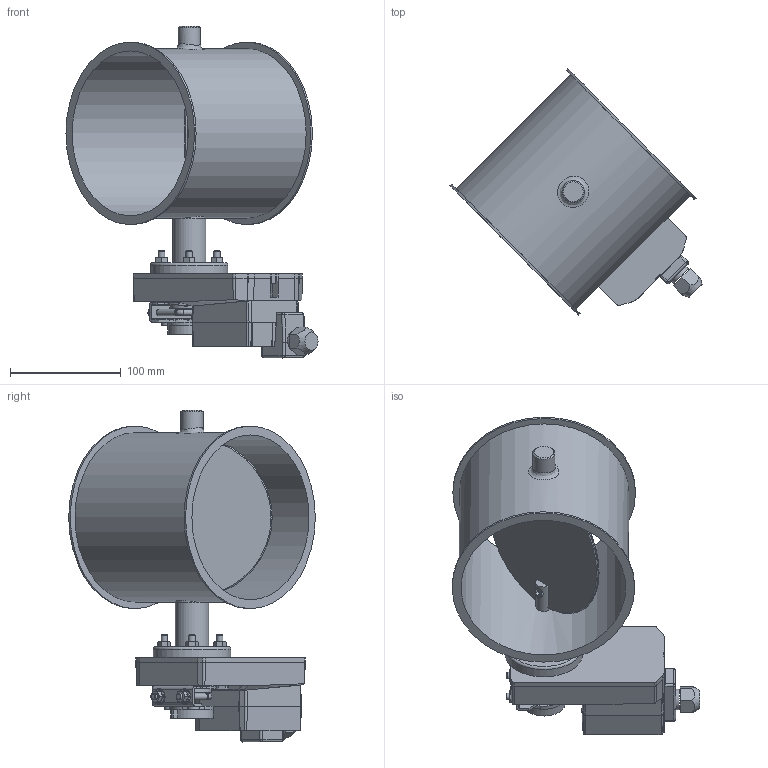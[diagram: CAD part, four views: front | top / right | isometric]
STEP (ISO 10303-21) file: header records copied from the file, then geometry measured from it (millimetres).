
FILE_DESCRIPTION((''),'2;1');
FILE_NAME('U:\Wolfgang\Marcel-3D\fertig\Kapitel 8\1521215.stp','2011-05-03T15:02:12',('TK1'),(''),'Autodesk Inventor 2010','Autodesk Inventor 2010','');
FILE_SCHEMA(('AUTOMOTIVE_DESIGN { 1 0 10303 214 1 1 1 1 }'));
Length unit declared in the file: millimetre
Products named in the file (11): 1521215; Bolzen D15; Scheibe150; DIN 6912 M6 x 16; 1521211-1; SM24A-Antrieb; BuchseD15 70-50; Distanzstück S; SM24A--A_standard_terminal_1cable; DIN 7991 M6x25; DIN 555 - ersetzt durch DIN EN 24034 M6
Assembly tree (18 placements, depth 3):
  1521215
    Bolzen D15  x2
    Scheibe150
    DIN 6912 M6 x 16  x2
    1521211-1
    SM24A-Antrieb
      BuchseD15 70-50
      Distanzstück S
      SM24A--A_standard_terminal_1cable
      DIN 7991 M6x25  x4
      DIN 555 - ersetzt durch DIN EN 24034 M6  x4
Bounding box: 227.75 x 222.78 x 300 mm (x, y, z)
Volume: 803066.1 mm3; surface area: 313284.5 mm2
Topology: 20 solids, 20 shells, 710 faces, 1770 edges, 1135 vertices
Faces by surface type: plane 379, cylinder 179, bspline 86, cone 38, torus 20, sphere 8
Full cylindrical faces by diameter (mm): 3 x2, 3.6 x2, 4.2 x4, 4.773 x4, 4.813 x4, 5.1 x1, 5.25 x4, 6 x14, 7 x4, 9.742 x1, 10 x4, 10.083 x1, 12 x4, 14 x4, 15 x2, 15.5 x1, 18.5 x1, 20 x1, 24 x1, 25.194 x1, 26 x2, 30 x2, 30.042 x1, 35 x2, 70 x1, 145 x1, 149 x1, 153 x1, 165 x2
Entity records: 19764 total; most frequent: CARTESIAN_POINT 5180, ORIENTED_EDGE 2828, DIRECTION 2724, EDGE_CURVE 1414, AXIS2_PLACEMENT_3D 972, VERTEX_POINT 963, VECTOR 780, LINE 780
